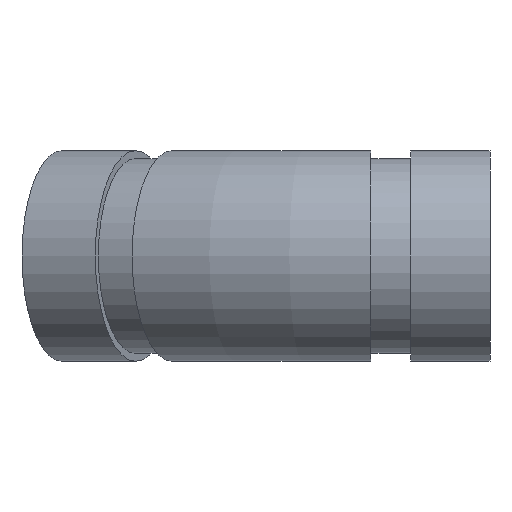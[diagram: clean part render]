
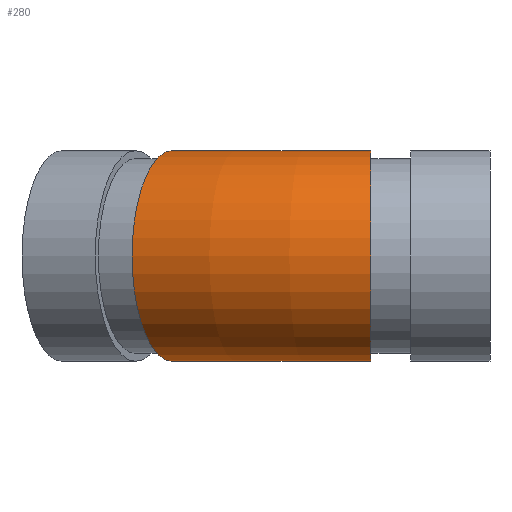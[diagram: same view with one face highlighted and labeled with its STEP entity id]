
A CAD part, left-side view. The second image highlights one B-rep face of the part: STEP entity #280.
In plain terms, the highlighted toroidal (fillet/blend) face has major radius 103.688 mm and minor radius 21.082 mm.
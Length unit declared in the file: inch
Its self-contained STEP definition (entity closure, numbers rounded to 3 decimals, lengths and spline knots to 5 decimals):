
#46=TOROIDAL_SURFACE('',#335,4.0822,0.83);
#78=FACE_OUTER_BOUND('',#96,.T.);
#96=EDGE_LOOP('',(#221,#222,#223,#224,#225,#226));
#105=CIRCLE('',#308,0.83);
#106=CIRCLE('',#309,0.83);
#116=CIRCLE('',#323,0.83);
#117=CIRCLE('',#324,0.83);
#126=CIRCLE('',#336,3.2522);
#131=VERTEX_POINT('',#476);
#132=VERTEX_POINT('',#477);
#142=VERTEX_POINT('',#504);
#143=VERTEX_POINT('',#505);
#155=EDGE_CURVE('',#131,#132,#105,.T.);
#156=EDGE_CURVE('',#132,#131,#106,.T.);
#168=EDGE_CURVE('',#142,#143,#116,.T.);
#169=EDGE_CURVE('',#143,#142,#117,.T.);
#178=EDGE_CURVE('',#132,#143,#126,.T.);
#221=ORIENTED_EDGE('',*,*,#155,.T.);
#222=ORIENTED_EDGE('',*,*,#178,.T.);
#223=ORIENTED_EDGE('',*,*,#169,.T.);
#224=ORIENTED_EDGE('',*,*,#168,.T.);
#225=ORIENTED_EDGE('',*,*,#178,.F.);
#226=ORIENTED_EDGE('',*,*,#156,.T.);
#280=ADVANCED_FACE('',(#78),#46,.T.);
#308=AXIS2_PLACEMENT_3D('',#478,#364,#365);
#309=AXIS2_PLACEMENT_3D('',#479,#366,#367);
#323=AXIS2_PLACEMENT_3D('',#506,#396,#397);
#324=AXIS2_PLACEMENT_3D('',#507,#398,#399);
#335=AXIS2_PLACEMENT_3D('',#525,#420,#421);
#336=AXIS2_PLACEMENT_3D('',#526,#422,#423);
#364=DIRECTION('center_axis',(-0.383,-0.924,0.));
#365=DIRECTION('ref_axis',(0.924,-0.383,0.));
#366=DIRECTION('center_axis',(-0.383,-0.924,0.));
#367=DIRECTION('ref_axis',(0.924,-0.383,0.));
#396=DIRECTION('center_axis',(0.,1.,0.));
#397=DIRECTION('ref_axis',(1.,0.,0.));
#398=DIRECTION('center_axis',(0.,1.,0.));
#399=DIRECTION('ref_axis',(1.,0.,0.));
#420=DIRECTION('center_axis',(0.,0.,-1.));
#421=DIRECTION('ref_axis',(-1.,0.,0.));
#422=DIRECTION('center_axis',(0.,0.,1.));
#423=DIRECTION('ref_axis',(-1.,0.,0.));
#476=CARTESIAN_POINT('',(0.31074,2.50019,0.83));
#477=CARTESIAN_POINT('',(1.07756,2.18256,0.));
#478=CARTESIAN_POINT('Origin',(0.31074,2.50019,0.));
#479=CARTESIAN_POINT('Origin',(0.31074,2.50019,0.));
#504=CARTESIAN_POINT('',(0.,0.938,0.83));
#505=CARTESIAN_POINT('',(0.83,0.938,0.));
#506=CARTESIAN_POINT('Origin',(0.,0.938,0.));
#507=CARTESIAN_POINT('Origin',(0.,0.938,0.));
#525=CARTESIAN_POINT('Origin',(4.0822,0.938,0.));
#526=CARTESIAN_POINT('Origin',(4.0822,0.938,0.));
